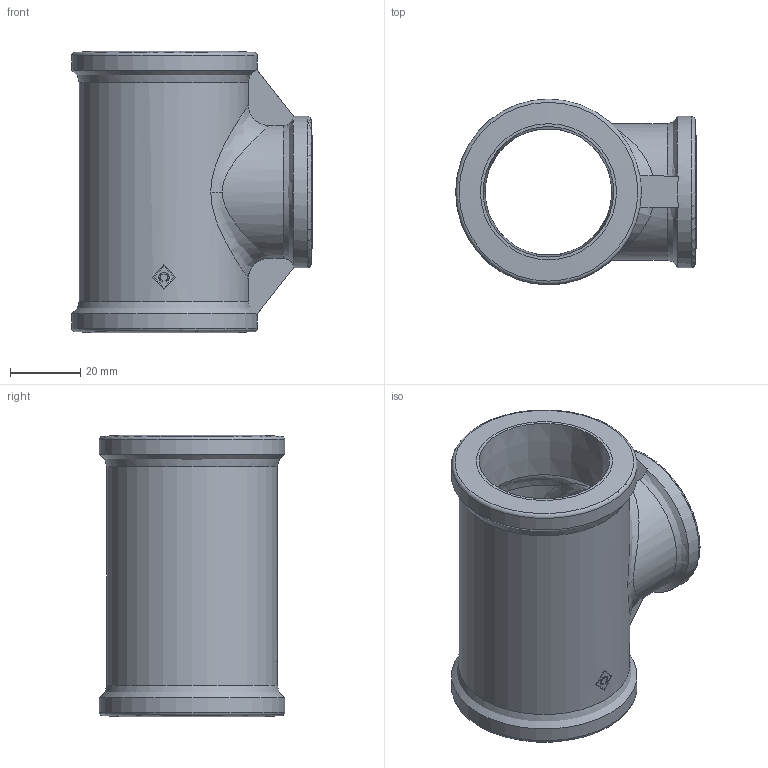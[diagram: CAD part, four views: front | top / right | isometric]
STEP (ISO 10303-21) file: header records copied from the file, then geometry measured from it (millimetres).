
FILE_DESCRIPTION((''),'2;1');
FILE_NAME('P:\Fastrack\53909_CRANE\Crane\Fig.161 Tee\New 1.25 inch\161-1.25x1.00.stp','2009-09-16T12:17:13',('btaylor'),(''),'Autodesk Inventor 2008','Autodesk Inventor 2008','');
FILE_SCHEMA(('AUTOMOTIVE_DESIGN { 1 0 10303 214 1 1 1 1 }'));
Length unit declared in the file: millimetre
Products named in the file (1): 161-1.25x1.00
Bounding box: 68.35 x 52.7 x 80 mm (x, y, z)
Volume: 66082 mm3; surface area: 28533 mm2
Topology: 1 solids, 1 shells, 65 faces, 182 edges, 121 vertices
Faces by surface type: bspline 25, plane 19, cylinder 12, cone 6, torus 3
Full cylindrical faces by diameter (mm): 43 x1, 52.7 x2
Entity records: 4266 total; most frequent: CARTESIAN_POINT 2767, ORIENTED_EDGE 324, DIRECTION 256, EDGE_CURVE 162, VERTEX_POINT 115, AXIS2_PLACEMENT_3D 109, EDGE_LOOP 85, FACE_OUTER_BOUND 65
